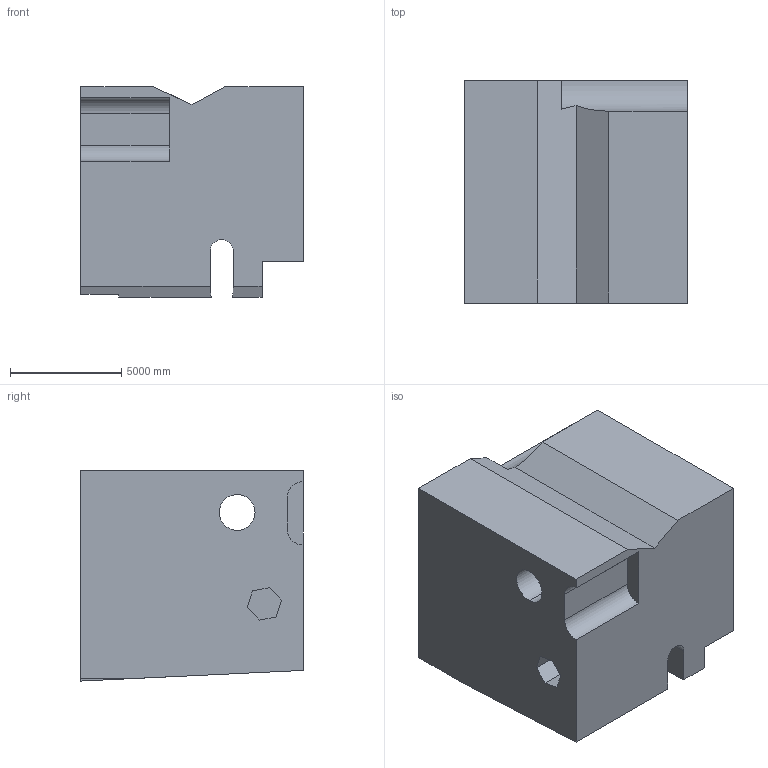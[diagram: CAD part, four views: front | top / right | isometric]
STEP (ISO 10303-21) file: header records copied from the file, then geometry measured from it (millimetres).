
FILE_DESCRIPTION (( 'STEP AP203' ), '1' );
FILE_NAME ('89.STEP', '2022-08-30T15:48:01', ( 'user' ), ( '' ), 'SwSTEP 2.0', 'SolidWorks 2021', '' );
FILE_SCHEMA (( 'CONFIG_CONTROL_DESIGN' ));
Length unit declared in the file: centimetre
Products named in the file (1): 89
Bounding box: 10000 x 10000 x 9447.13 mm (x, y, z)
Volume: 822302232579.9 mm3; surface area: 653981899.4 mm2
Topology: 1 solids, 1 shells, 34 faces, 93 edges, 62 vertices
Faces by surface type: plane 26, cylinder 8
Entity records: 1152 total; most frequent: CARTESIAN_POINT 202, ORIENTED_EDGE 186, DIRECTION 173, EDGE_CURVE 93, LINE 75, VECTOR 75, VERTEX_POINT 62, AXIS2_PLACEMENT_3D 49
